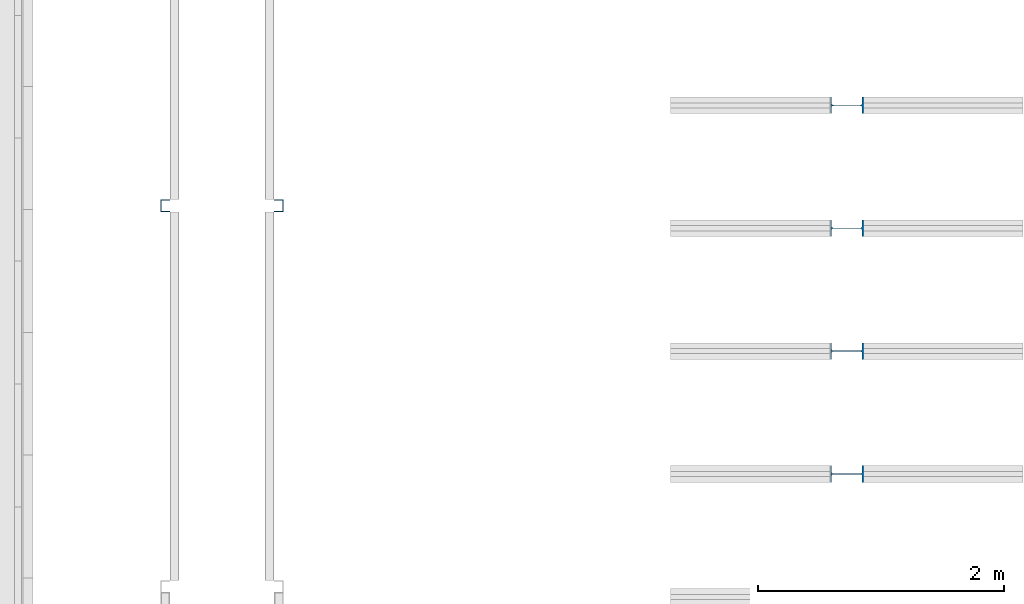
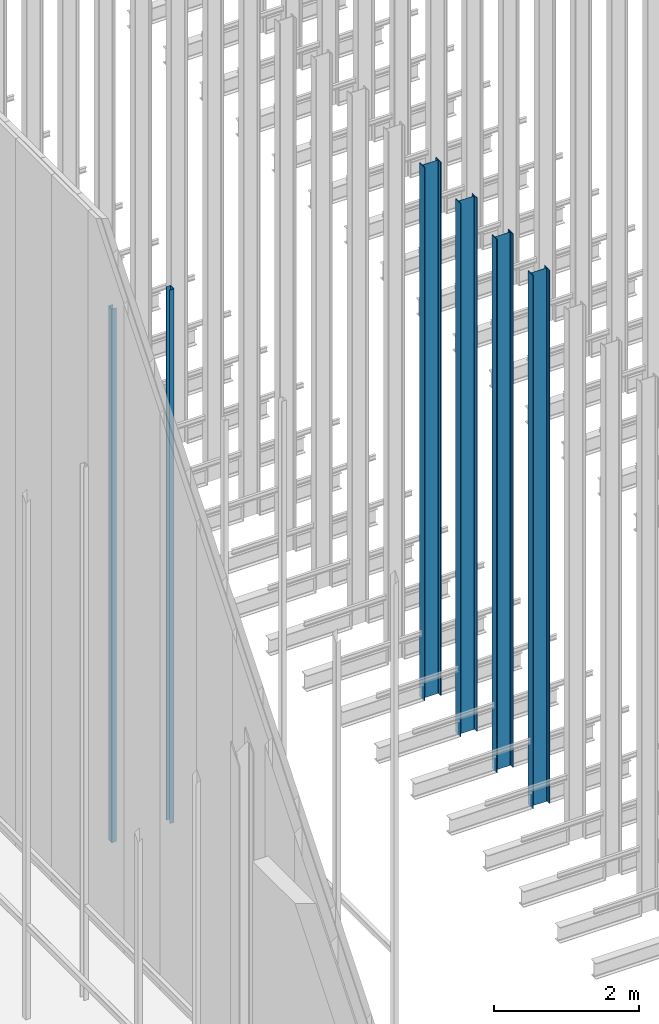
# One storey, part 46 of 302: 6 columns.
"""IFC2X3 building model written with IfcOpenShell, lengths in metres."""

from ifc_helpers import new_model, entity, si_unit, converted_unit, derived_unit, direction, frame, frame_2d, origin, place, context, subcontext, project, spatial, polyline, circle_curve, parameter, trimmed, segment, composite_curve, outline, extrude, source, transform, mapped, material, type_object, type_shapes, element, save


model = new_model("IFC2X3")

# Units and contexts
model_context = context("Model", 3, precision=1e-05, world=origin(), true_north=direction((6.12303176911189e-17, 1.0)))
body_context = subcontext(model_context, "Body", "Model", "MODEL_VIEW")
ifc_project = project(units=[si_unit("LENGTHUNIT", "METRE"), si_unit("AREAUNIT", "SQUARE_METRE"), si_unit("VOLUMEUNIT", "CUBIC_METRE"), converted_unit("PLANEANGLEUNIT", "DEGREE", entity("IfcRatioMeasure", 0.0174532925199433), si_unit("PLANEANGLEUNIT", "RADIAN"), dimensions=[0, 0, 0, 0, 0, 0, 0]), si_unit("MASSUNIT", "GRAM", prefix="KILO"), derived_unit("MASSDENSITYUNIT", [(si_unit("MASSUNIT", "GRAM", prefix="KILO"), 1), (si_unit("LENGTHUNIT", "METRE"), -3)]), derived_unit("MOMENTOFINERTIAUNIT", [(si_unit("LENGTHUNIT", "METRE"), 4)]), si_unit("TIMEUNIT", "SECOND"), si_unit("FREQUENCYUNIT", "HERTZ"), si_unit("THERMODYNAMICTEMPERATUREUNIT", "DEGREE_CELSIUS"), derived_unit("THERMALTRANSMITTANCEUNIT", [(si_unit("MASSUNIT", "GRAM", prefix="KILO"), 1), (si_unit("THERMODYNAMICTEMPERATUREUNIT", "KELVIN"), -1), (si_unit("TIMEUNIT", "SECOND"), -3)]), derived_unit("VOLUMETRICFLOWRATEUNIT", [(si_unit("LENGTHUNIT", "METRE"), 3), (si_unit("TIMEUNIT", "SECOND"), -1)]), si_unit("ELECTRICCURRENTUNIT", "AMPERE"), si_unit("ELECTRICVOLTAGEUNIT", "VOLT"), si_unit("POWERUNIT", "WATT"), si_unit("FORCEUNIT", "NEWTON", prefix="KILO"), si_unit("ILLUMINANCEUNIT", "LUX"), si_unit("LUMINOUSFLUXUNIT", "LUMEN"), si_unit("LUMINOUSINTENSITYUNIT", "CANDELA"), derived_unit("USERDEFINED", [(si_unit("MASSUNIT", "GRAM", prefix="KILO"), -1), (si_unit("LENGTHUNIT", "METRE"), -2), (si_unit("TIMEUNIT", "SECOND"), 3), (si_unit("LUMINOUSFLUXUNIT", "LUMEN"), 1)]), derived_unit("LINEARVELOCITYUNIT", [(si_unit("LENGTHUNIT", "METRE"), 1), (si_unit("TIMEUNIT", "SECOND"), -1)]), si_unit("PRESSUREUNIT", "PASCAL"), derived_unit("USERDEFINED", [(si_unit("LENGTHUNIT", "METRE"), -2), (si_unit("MASSUNIT", "GRAM", prefix="KILO"), 1), (si_unit("TIMEUNIT", "SECOND"), -2)]), derived_unit("LINEARFORCEUNIT", [(si_unit("MASSUNIT", "GRAM", prefix="KILO"), 1), (si_unit("LENGTHUNIT", "METRE"), 1), (si_unit("TIMEUNIT", "SECOND"), -2), (si_unit("LENGTHUNIT", "METRE"), -1)]), derived_unit("PLANARFORCEUNIT", [(si_unit("MASSUNIT", "GRAM", prefix="KILO"), 1), (si_unit("LENGTHUNIT", "METRE"), 1), (si_unit("TIMEUNIT", "SECOND"), -2), (si_unit("LENGTHUNIT", "METRE"), -2)])], contexts=[model_context])

# Site, building, storey
site_placement = place(None, origin())
site = spatial("IfcSite", under=ifc_project, at=site_placement, Name="Default", CompositionType="ELEMENT")
building_placement = place(site_placement, origin())
building = spatial("IfcBuilding", under=site, at=building_placement, CompositionType="ELEMENT")
storey_placement = place(building_placement, frame((0.0, 0.0, -1.3)))
storey = spatial("IfcBuildingStorey", under=building, at=storey_placement, Name="00_EG", CompositionType="ELEMENT", Elevation=-1.3)

# Columns
ifc_material = material(Name="Metall - Baustahl S235")
column_type_1 = type_object("IfcColumnType", Name="Leichter Stahl Schlossschrauben Stütze:C 100", PredefinedType="COLUMN", material=ifc_material)
shared_shape_1 = source(origin(), body_context, "Body", "SweptSolid", [
    extrude(outline(composite_curve([segment(polyline([(-0.0469749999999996, -0.0499999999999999), (0.0214500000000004, -0.0499999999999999)]), True, "CONTINUOUS"), segment(trimmed(circle_curve(frame_2d((0.0214500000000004, -0.0434249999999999), x_axis=(0.0, -1.0)), 0.00657500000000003), [parameter(0.0)], [parameter(89.9999999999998)], True, "PARAMETER"), True, "CONTINUOUS"), segment(polyline([(0.0280250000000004, -0.0434249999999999), (0.0280250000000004, 0.0434250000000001)]), True, "CONTINUOUS"), segment(trimmed(circle_curve(frame_2d((0.0214500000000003, 0.0434250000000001), x_axis=(1.0, 0.0)), 0.0065750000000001), [parameter(0.0)], [parameter(89.9999999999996)], True, "PARAMETER"), True, "CONTINUOUS"), segment(polyline([(0.0214500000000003, 0.0500000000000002), (-0.0469750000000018, 0.0500000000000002)]), True, "CONTINUOUS"), segment(polyline([(-0.0469750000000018, 0.0500000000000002), (-0.0469750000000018, 0.0450000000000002)]), True, "CONTINUOUS"), segment(polyline([(-0.0469750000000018, 0.0450000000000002), (0.0214500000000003, 0.0450000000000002)]), True, "CONTINUOUS"), segment(trimmed(circle_curve(frame_2d((0.0214500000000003, 0.0434249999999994), x_axis=(0.0, 1.0)), 0.00157500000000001), [parameter(269.999999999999)], [parameter(0.0)], True, "PARAMETER"), False, "CONTINUOUS"), segment(polyline([(0.0230250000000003, 0.0434249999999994), (0.0230250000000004, -0.0434249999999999)]), True, "CONTINUOUS"), segment(trimmed(circle_curve(frame_2d((0.0214500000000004, -0.0434249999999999), x_axis=(1.0, 0.0)), 0.00157500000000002), [parameter(270.0)], [parameter(0.0)], True, "PARAMETER"), False, "CONTINUOUS"), segment(polyline([(0.0214500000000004, -0.0449999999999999), (-0.0469749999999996, -0.0449999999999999)]), True, "CONTINUOUS"), segment(polyline([(-0.0469749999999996, -0.0449999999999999), (-0.0469749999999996, -0.0499999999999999)]), True, "CONTINUOUS")], self_intersect=False)), frame((0.0499999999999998, 0.0280250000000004, -0.0300000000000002), z_axis=(0.0, 0.0, 1.0), x_axis=(0.0, -1.0, 0.0)), (0.0, 0.0, 1.0), 9.0),
])
type_shapes(column_type_1, [shared_shape_1])
column_1_placement = place(storey_placement, frame((-176.230111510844, 30.248088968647, 1.3), z_axis=(0.0, 0.0, 1.0), x_axis=(0.0, -1.0, 0.0)))
element("IfcColumn", 1, at=column_1_placement, inside=storey, type_object=column_type_1, material=ifc_material, Name="Leichter Stahl Schlossschrauben Stütze:C 100", ObjectType="Leichter Stahl Schlossschrauben Stütze:C 100", context=body_context, shape_type="MappedRepresentation", body=[
    mapped(shared_shape_1, transform((0.0, 0.0, 0.0), scale=1.0)),
])
column_type_2 = type_object("IfcColumnType", Name="Leichter Stahl Schlossschrauben Stütze:C 100", PredefinedType="COLUMN", material=ifc_material)
shared_shape_2 = source(origin(), body_context, "Body", "SweptSolid", [
    extrude(outline(composite_curve([segment(polyline([(-0.0214500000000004, -0.0499999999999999), (0.0469749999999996, -0.0499999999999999)]), True, "CONTINUOUS"), segment(polyline([(0.0469749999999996, -0.0499999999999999), (0.0469749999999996, -0.0449999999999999)]), True, "CONTINUOUS"), segment(polyline([(0.0469749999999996, -0.0449999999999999), (-0.0214500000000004, -0.045)]), True, "CONTINUOUS"), segment(trimmed(circle_curve(frame_2d((-0.0214500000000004, -0.043425), x_axis=(0.0, -1.0)), 0.00157500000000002), [parameter(270.0)], [parameter(0.0)], True, "PARAMETER"), False, "CONTINUOUS"), segment(polyline([(-0.0230250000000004, -0.0434249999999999), (-0.0230250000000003, 0.0434249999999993)]), True, "CONTINUOUS"), segment(trimmed(circle_curve(frame_2d((-0.0214500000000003, 0.0434249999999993), x_axis=(-1.0, 0.0)), 0.00157500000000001), [parameter(269.999999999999)], [parameter(0.0)], True, "PARAMETER"), False, "CONTINUOUS"), segment(polyline([(-0.0214500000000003, 0.0450000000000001), (0.0469750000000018, 0.0450000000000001)]), True, "CONTINUOUS"), segment(polyline([(0.0469750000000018, 0.0450000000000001), (0.0469750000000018, 0.0500000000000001)]), True, "CONTINUOUS"), segment(polyline([(0.0469750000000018, 0.0500000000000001), (-0.0214500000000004, 0.0500000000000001)]), True, "CONTINUOUS"), segment(trimmed(circle_curve(frame_2d((-0.0214500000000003, 0.043425), x_axis=(0.0, 1.0)), 0.0065750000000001), [parameter(0.0)], [parameter(89.9999999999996)], True, "PARAMETER"), True, "CONTINUOUS"), segment(polyline([(-0.0280250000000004, 0.043425), (-0.0280250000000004, -0.043425)]), True, "CONTINUOUS"), segment(trimmed(circle_curve(frame_2d((-0.0214500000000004, -0.0434249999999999), x_axis=(-1.0, 0.0)), 0.00657500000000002), [parameter(0.0)], [parameter(89.9999999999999)], True, "PARAMETER"), True, "CONTINUOUS")], self_intersect=False)), frame((0.0499999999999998, -0.0280250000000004, -0.0300000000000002), z_axis=(0.0, 0.0, 1.0), x_axis=(0.0, -1.0, 0.0)), (0.0, 0.0, 1.0), 9.0),
])
type_shapes(column_type_2, [shared_shape_2])
column_2_placement = place(storey_placement, frame((-175.230111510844, 30.248088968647, 1.3), z_axis=(0.0, 0.0, 1.0), x_axis=(0.0, -1.0, 0.0)))
element("IfcColumn", 2, at=column_2_placement, inside=storey, type_object=column_type_2, material=ifc_material, Name="Leichter Stahl Schlossschrauben Stütze:C 100", ObjectType="Leichter Stahl Schlossschrauben Stütze:C 100", context=body_context, shape_type="MappedRepresentation", body=[
    mapped(shared_shape_2, transform((0.0, 0.0, 0.0), scale=1.0)),
])
column_type_3 = type_object("IfcColumnType", Name="IPE Stütze:IPE 270", PredefinedType="COLUMN", material=ifc_material)
shared_shape_3 = source(origin(), body_context, "Body", "SweptSolid", [
    extrude(outline(composite_curve([segment(polyline([(0.1248, -0.0675), (0.135, -0.0675)]), True, "CONTINUOUS"), segment(polyline([(0.135, -0.0675), (0.135, 0.0675)]), True, "CONTINUOUS"), segment(polyline([(0.135, 0.0675), (0.1248, 0.0675)]), True, "CONTINUOUS"), segment(polyline([(0.1248, 0.0675), (0.1248, 0.0183)]), True, "CONTINUOUS"), segment(trimmed(circle_curve(frame_2d((0.1098, 0.0183), x_axis=(1.0, 0.0)), 0.015), [parameter(270.0)], [parameter(0.0)], True, "PARAMETER"), False, "CONTINUOUS"), segment(polyline([(0.1098, 0.0033), (-0.1098, 0.0033)]), True, "CONTINUOUS"), segment(trimmed(circle_curve(frame_2d((-0.1098, 0.0183), x_axis=(0.0, -1.0)), 0.015), [parameter(270.0)], [parameter(0.0)], True, "PARAMETER"), False, "CONTINUOUS"), segment(polyline([(-0.1248, 0.0183), (-0.1248, 0.0675)]), True, "CONTINUOUS"), segment(polyline([(-0.1248, 0.0675), (-0.135, 0.0675)]), True, "CONTINUOUS"), segment(polyline([(-0.135, 0.0675), (-0.135, -0.0675)]), True, "CONTINUOUS"), segment(polyline([(-0.135, -0.0675), (-0.1248, -0.0675)]), True, "CONTINUOUS"), segment(polyline([(-0.1248, -0.0675), (-0.1248, -0.0183)]), True, "CONTINUOUS"), segment(trimmed(circle_curve(frame_2d((-0.1098, -0.0183), x_axis=(-1.0, 0.0)), 0.015), [parameter(269.999999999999)], [parameter(0.0)], True, "PARAMETER"), False, "CONTINUOUS"), segment(polyline([(-0.1098, -0.0033), (0.1098, -0.0033)]), True, "CONTINUOUS"), segment(trimmed(circle_curve(frame_2d((0.1098, -0.0183), x_axis=(0.0, 1.0)), 0.015), [parameter(270.0)], [parameter(0.0)], True, "PARAMETER"), False, "CONTINUOUS"), segment(polyline([(0.1248, -0.0183), (0.1248, -0.0675)]), True, "CONTINUOUS")], self_intersect=False)), frame((0.0, 0.0, -0.0300000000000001), z_axis=(0.0, 0.0, 1.0), x_axis=(0.0, -1.0, 0.0)), (0.0, 0.0, 1.0), 9.0),
])
type_shapes(column_type_3, [shared_shape_3])
for number, where, z_axis, x_axis in (
    (3, (-170.645111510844, 31.015588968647, 1.3), (0.0, 0.0, 1.0), (0.0, 1.0, 0.0)),
    (4, (-170.645111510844, 30.015588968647, 1.3), (0.0, 0.0, 1.0), (0.0, 1.0, 0.0)),
    (5, (-170.645111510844, 29.015588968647, 1.3), (0.0, 0.0, 1.0), (0.0, 1.0, 0.0)),
    (6, (-170.645111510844, 28.015588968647, 1.3), (0.0, 0.0, 1.0), (0.0, 1.0, 0.0)),
):
    element("IfcColumn", number, at=place(storey_placement, frame(where, z_axis=z_axis, x_axis=x_axis)), inside=storey, type_object=column_type_3, material=ifc_material, Name="IPE Stütze:IPE 270", ObjectType="IPE Stütze:IPE 270", context=body_context, shape_type="MappedRepresentation", body=[
        mapped(shared_shape_3, transform((0.0, 0.0, 0.0), scale=1.0)),
    ])

save(model, "model.ifc")
